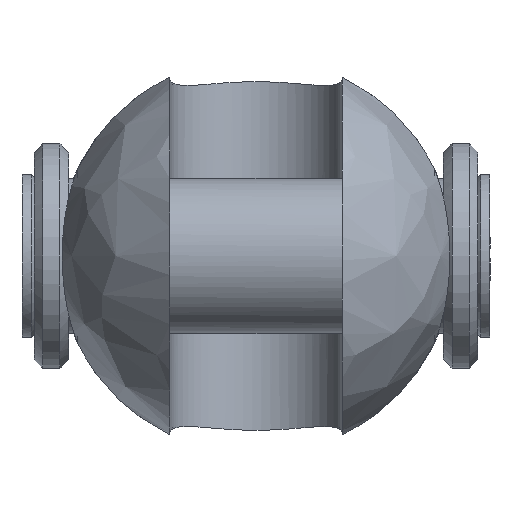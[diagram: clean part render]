
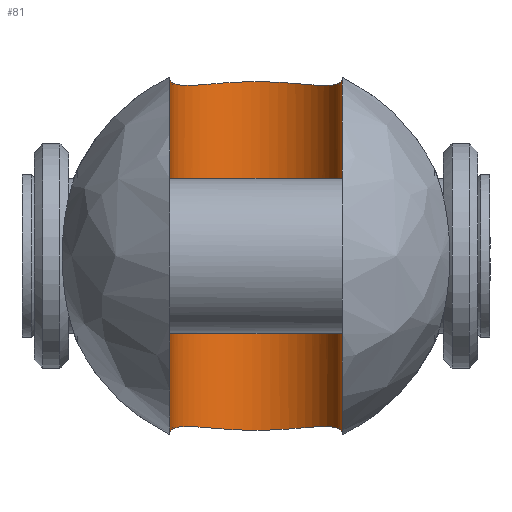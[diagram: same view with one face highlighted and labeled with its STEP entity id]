
A CAD part, left-side view. The second image highlights one B-rep face of the part: STEP entity #81.
In plain terms, the highlighted cylindrical face has radius 5 mm (diameter 10 mm), a partial arc.
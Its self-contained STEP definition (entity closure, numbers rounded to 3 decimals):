
#81=ADVANCED_FACE('',(#156),#1278,.F.);
#156=FACE_OUTER_BOUND('',#239,.T.);
#239=EDGE_LOOP('',(#511,#512,#513,#514,#515,#516,#517,#518));
#511=ORIENTED_EDGE('',*,*,#803,.F.);
#512=ORIENTED_EDGE('',*,*,#804,.F.);
#513=ORIENTED_EDGE('',*,*,#820,.F.);
#514=ORIENTED_EDGE('',*,*,#805,.F.);
#515=ORIENTED_EDGE('',*,*,#806,.F.);
#516=ORIENTED_EDGE('',*,*,#807,.F.);
#517=ORIENTED_EDGE('',*,*,#823,.F.);
#518=ORIENTED_EDGE('',*,*,#802,.F.);
#802=EDGE_CURVE('',#1181,#1182,#936,.T.);
#803=EDGE_CURVE('',#1183,#1181,#937,.T.);
#804=EDGE_CURVE('',#1184,#1183,#938,.T.);
#805=EDGE_CURVE('',#1186,#1185,#939,.T.);
#806=EDGE_CURVE('',#1187,#1186,#940,.T.);
#807=EDGE_CURVE('',#1188,#1187,#941,.T.);
#820=EDGE_CURVE('',#1185,#1184,#946,.T.);
#823=EDGE_CURVE('',#1182,#1188,#947,.T.);
#936=B_SPLINE_CURVE_WITH_KNOTS('',3,(#2884,#2885,#2886,#2887),
 .UNSPECIFIED.,.F.,.F.,(4,4),(-1.575,0.),.UNSPECIFIED.);
#937=B_SPLINE_CURVE_WITH_KNOTS('',1,(#2888,#2889),.UNSPECIFIED.,.F.,.F.,
(2,2),(-20.468,0.),.UNSPECIFIED.);
#938=B_SPLINE_CURVE_WITH_KNOTS('',3,(#2890,#2891,#2892,#2893),
 .UNSPECIFIED.,.F.,.F.,(4,4),(-1.575,0.),.UNSPECIFIED.);
#939=B_SPLINE_CURVE_WITH_KNOTS('',3,(#2894,#2895,#2896,#2897),
 .UNSPECIFIED.,.F.,.F.,(4,4),(-1.575,0.),.UNSPECIFIED.);
#940=B_SPLINE_CURVE_WITH_KNOTS('',1,(#2898,#2899),.UNSPECIFIED.,.F.,.F.,
(2,2),(-20.468,0.),.UNSPECIFIED.);
#941=B_SPLINE_CURVE_WITH_KNOTS('',3,(#2900,#2901,#2902,#2903),
 .UNSPECIFIED.,.F.,.F.,(4,4),(-1.575,0.),.UNSPECIFIED.);
#946=B_SPLINE_CURVE_WITH_KNOTS('',3,(#2940,#2941,#2942,#2943,#2944,#2945,
#2946,#2947,#2948,#2949,#2950,#2951,#2952,#2953,#2954,#2955,#2956,#2957),
 .UNSPECIFIED.,.F.,.F.,(4,2,2,2,2,2,2,2,4),(0.,0.845,2.668,
4.508,6.348,8.187,10.027,11.851,
12.695),.UNSPECIFIED.);
#947=B_SPLINE_CURVE_WITH_KNOTS('',3,(#2964,#2965,#2966,#2967,#2968,#2969,
#2970,#2971,#2972,#2973,#2974,#2975,#2976,#2977,#2978,#2979,#2980,#2981),
 .UNSPECIFIED.,.F.,.F.,(4,2,2,2,2,2,2,2,4),(0.,0.845,2.668,
4.508,6.348,8.187,10.027,11.851,
12.695),.UNSPECIFIED.);
#1181=VERTEX_POINT('',#2827);
#1182=VERTEX_POINT('',#2828);
#1183=VERTEX_POINT('',#2829);
#1184=VERTEX_POINT('',#2830);
#1185=VERTEX_POINT('',#2831);
#1186=VERTEX_POINT('',#2832);
#1187=VERTEX_POINT('',#2833);
#1188=VERTEX_POINT('',#2834);
#1278=CYLINDRICAL_SURFACE('',#1434,5.);
#1434=AXIS2_PLACEMENT_3D('',#2332,#1488,$);
#1488=DIRECTION('',(0.,0.,1.));
#2332=CARTESIAN_POINT('',(16.,0.,0.));
#2827=CARTESIAN_POINT('',(16.,5.,10.234));
#2828=CARTESIAN_POINT('',(17.526,4.762,9.995));
#2829=CARTESIAN_POINT('',(16.,5.,-10.234));
#2830=CARTESIAN_POINT('',(17.526,4.762,-9.995));
#2831=CARTESIAN_POINT('',(17.526,-4.762,-9.995));
#2832=CARTESIAN_POINT('',(16.,-5.,-10.234));
#2833=CARTESIAN_POINT('',(16.,-5.,10.234));
#2834=CARTESIAN_POINT('',(17.526,-4.762,9.995));
#2884=CARTESIAN_POINT('',(16.,5.,10.234));
#2885=CARTESIAN_POINT('',(16.498,5.,10.157));
#2886=CARTESIAN_POINT('',(17.023,4.923,10.075));
#2887=CARTESIAN_POINT('',(17.526,4.762,9.995));
#2888=CARTESIAN_POINT('',(16.,5.,-10.234));
#2889=CARTESIAN_POINT('',(16.,5.,10.234));
#2890=CARTESIAN_POINT('',(17.526,4.762,-9.995));
#2891=CARTESIAN_POINT('',(17.023,4.923,-10.075));
#2892=CARTESIAN_POINT('',(16.498,5.,-10.157));
#2893=CARTESIAN_POINT('',(16.,5.,-10.234));
#2894=CARTESIAN_POINT('',(16.,-5.,-10.234));
#2895=CARTESIAN_POINT('',(16.498,-5.,-10.157));
#2896=CARTESIAN_POINT('',(17.023,-4.923,-10.075));
#2897=CARTESIAN_POINT('',(17.526,-4.762,-9.995));
#2898=CARTESIAN_POINT('',(16.,-5.,10.234));
#2899=CARTESIAN_POINT('',(16.,-5.,-10.234));
#2900=CARTESIAN_POINT('',(17.526,-4.762,9.995));
#2901=CARTESIAN_POINT('',(17.023,-4.923,10.075));
#2902=CARTESIAN_POINT('',(16.498,-5.,10.157));
#2903=CARTESIAN_POINT('',(16.,-5.,10.234));
#2940=CARTESIAN_POINT('',(17.526,-4.762,-9.995));
#2941=CARTESIAN_POINT('',(17.79,-4.677,-9.953));
#2942=CARTESIAN_POINT('',(18.053,-4.568,-9.923));
#2943=CARTESIAN_POINT('',(18.848,-4.155,-9.863));
#2944=CARTESIAN_POINT('',(19.341,-3.764,-9.877));
#2945=CARTESIAN_POINT('',(20.114,-2.901,-9.938));
#2946=CARTESIAN_POINT('',(20.449,-2.365,-9.99));
#2947=CARTESIAN_POINT('',(20.892,-1.206,-10.07));
#2948=CARTESIAN_POINT('',(21.,-0.583,-10.095));
#2949=CARTESIAN_POINT('',(21.,0.583,-10.095));
#2950=CARTESIAN_POINT('',(20.892,1.206,-10.07));
#2951=CARTESIAN_POINT('',(20.449,2.365,-9.99));
#2952=CARTESIAN_POINT('',(20.114,2.901,-9.938));
#2953=CARTESIAN_POINT('',(19.341,3.764,-9.877));
#2954=CARTESIAN_POINT('',(18.848,4.155,-9.863));
#2955=CARTESIAN_POINT('',(18.053,4.568,-9.923));
#2956=CARTESIAN_POINT('',(17.79,4.677,-9.953));
#2957=CARTESIAN_POINT('',(17.526,4.762,-9.995));
#2964=CARTESIAN_POINT('',(17.526,4.762,9.995));
#2965=CARTESIAN_POINT('',(17.79,4.677,9.953));
#2966=CARTESIAN_POINT('',(18.053,4.568,9.923));
#2967=CARTESIAN_POINT('',(18.848,4.155,9.863));
#2968=CARTESIAN_POINT('',(19.341,3.764,9.877));
#2969=CARTESIAN_POINT('',(20.114,2.901,9.938));
#2970=CARTESIAN_POINT('',(20.449,2.365,9.99));
#2971=CARTESIAN_POINT('',(20.892,1.206,10.07));
#2972=CARTESIAN_POINT('',(21.,0.583,10.095));
#2973=CARTESIAN_POINT('',(21.,-0.583,10.095));
#2974=CARTESIAN_POINT('',(20.892,-1.206,10.07));
#2975=CARTESIAN_POINT('',(20.449,-2.365,9.99));
#2976=CARTESIAN_POINT('',(20.114,-2.901,9.938));
#2977=CARTESIAN_POINT('',(19.341,-3.764,9.877));
#2978=CARTESIAN_POINT('',(18.848,-4.155,9.863));
#2979=CARTESIAN_POINT('',(18.053,-4.568,9.923));
#2980=CARTESIAN_POINT('',(17.79,-4.677,9.953));
#2981=CARTESIAN_POINT('',(17.526,-4.762,9.995));
